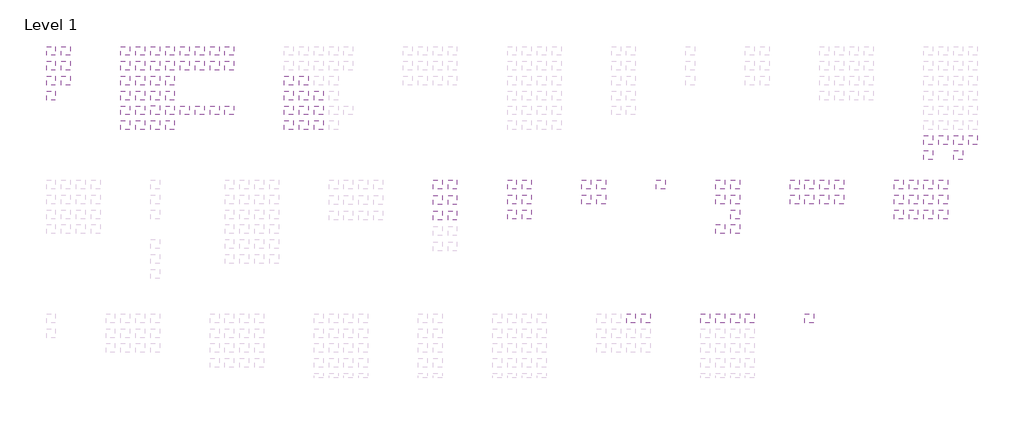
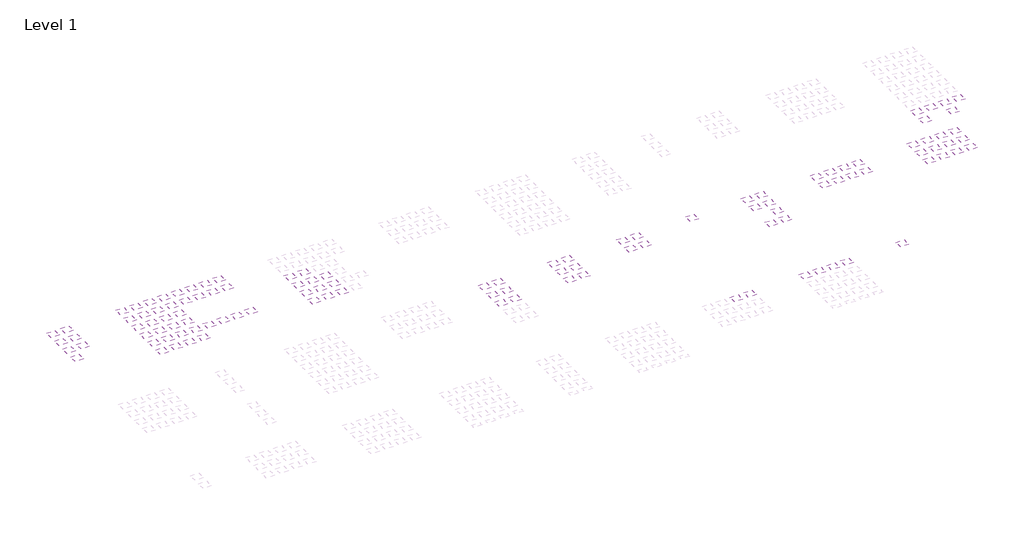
# One storey, part 3 of 4: 111 coverings.
"""IFC4 building model written with IfcOpenShell, lengths in millimetres."""

import ifcopenshell
import ifcopenshell.guid

model = None  # the IFC model being written
_history = None  # IfcOwnerHistory: only IFC2X3 demands one
_inside = {}  # id of a spatial element -> (the spatial element, [elements in it])
_under = {}  # id of a project, library or spatial element -> (it, [spatial elements below it])
_declared = {}  # id of a project -> (the project, [libraries it declares])
_typed = {}  # id of a type object -> (the type object, [elements of that type])
_made_of = {}  # id of a material, layer set ... -> (it, [elements and type objects made of it])


def new_model(schema):
    """Start an empty IFC model of exactly this schema.

    Asked for "IFC4X3", IfcOpenShell would pick the latest addendum, in which some entities
    have other attributes; the version numbers below select the first issue.
    IFC2X3 requires an IfcOwnerHistory on every rooted entity: one is made here for all.
    """
    global model, _history
    if schema == "IFC4X3":
        model = ifcopenshell.file(schema_version=(4, 3, 0, 0))
    else:
        model = ifcopenshell.file(schema=schema)
    _inside.clear()
    _under.clear()
    _declared.clear()
    _typed.clear()
    _made_of.clear()
    _history = None
    if model.schema == "IFC2X3":
        org = make("IfcOrganization", Name="unknown")
        user = make(
            "IfcPersonAndOrganization",
            ThePerson=make("IfcPerson", FamilyName="unknown"),
            TheOrganization=org,
        )
        app = make(
            "IfcApplication",
            ApplicationDeveloper=org,
            Version="unknown",
            ApplicationFullName="unknown",
            ApplicationIdentifier="unknown",
        )
        _history = make(
            "IfcOwnerHistory",
            OwningUser=user,
            OwningApplication=app,
            ChangeAction="ADDED",
            CreationDate=0,
        )
    return model


def make(cls, **values):
    """One entity of the class cls with the attributes given. An attribute that is None is left unset."""
    return model.create_entity(
        cls, **{name: value for name, value in values.items() if value is not None}
    )


def rooted(cls, **values):
    """An entity with a GlobalId (a new one), such as an element, a storey or a relation."""
    return make(cls, GlobalId=ifcopenshell.guid.new(), OwnerHistory=_history, **values)


def si_unit(unit_type, name, prefix=None):
    """IfcSIUnit, for example si_unit("LENGTHUNIT", "METRE", prefix="MILLI")."""
    return make("IfcSIUnit", UnitType=unit_type, Prefix=prefix, Name=name)


def assignment(units):
    """IfcUnitAssignment: the units of a project."""
    return None if units is None else make("IfcUnitAssignment", Units=units)


def point(xyz):
    """IfcCartesianPoint."""
    return None if xyz is None else make("IfcCartesianPoint", Coordinates=xyz)


def direction(xyz):
    """IfcDirection."""
    return None if xyz is None else make("IfcDirection", DirectionRatios=xyz)


def frame(location, z_axis=None, x_axis=None):
    """IfcAxis2Placement3D, a coordinate frame: its origin and axes. An axis left out is left unset."""
    return make(
        "IfcAxis2Placement3D",
        Location=point(location),
        Axis=direction(z_axis),
        RefDirection=direction(x_axis),
    )


def origin():
    """The frame at (0, 0, 0) with its axes left unset."""
    return frame((0.0, 0.0, 0.0))


def place(relative_to, where):
    """IfcLocalPlacement: puts the frame where relative to a parent placement (None: the world)."""
    return make(
        "IfcLocalPlacement", PlacementRelTo=relative_to, RelativePlacement=where
    )


def context(
    kind, dimensions, precision=None, world=None, true_north=None, identifier=None
):
    """IfcGeometricRepresentationContext, for example the 3D "Model" context."""
    return make(
        "IfcGeometricRepresentationContext",
        ContextIdentifier=identifier,
        ContextType=kind,
        CoordinateSpaceDimension=dimensions,
        Precision=precision,
        WorldCoordinateSystem=world,
        TrueNorth=true_north,
    )


def project(units=None, contexts=None):
    """IfcProject with its units and contexts."""
    return rooted(
        "IfcProject",
        Name="project",
        RepresentationContexts=contexts,
        UnitsInContext=assignment(units),
    )


def spatial(cls, under=None, at=None, **own):
    """A site, building, storey or space (cls), placed at a placement, below another one or the project."""
    s = rooted(cls, ObjectPlacement=at, **own)
    if under is not None:
        _under.setdefault(under.id(), (under, []))[1].append(s)
    return s


def polyline(points):
    """IfcPolyline through the points."""
    return make("IfcPolyline", Points=[point(p) for p in points])


def outline(outer, holes=None, kind="AREA"):
    """IfcArbitraryClosedProfileDef: a profile drawn as a closed curve; with holes, ...WithVoids."""
    if holes is None:
        return make("IfcArbitraryClosedProfileDef", ProfileType=kind, OuterCurve=outer)
    return make(
        "IfcArbitraryProfileDefWithVoids",
        ProfileType=kind,
        OuterCurve=outer,
        InnerCurves=holes,
    )


def extrude(swept, where, along, depth):
    """IfcExtrudedAreaSolid: the profile swept, set in the frame where, extruded along a direction by depth."""
    return make(
        "IfcExtrudedAreaSolid",
        SweptArea=swept,
        Position=where,
        ExtrudedDirection=direction(along),
        Depth=depth,
    )


def shape(context_of_items, identifier, shape_type, items):
    """IfcShapeRepresentation: the items that make up one representation, for example the "Body"."""
    return make(
        "IfcShapeRepresentation",
        ContextOfItems=context_of_items,
        RepresentationIdentifier=identifier,
        RepresentationType=shape_type,
        Items=items,
    )


def made_of(thing, what):
    """Note that an element or type object is made of a material, layer set ...; save() writes the relation."""
    if what is not None:
        _made_of.setdefault(what.id(), (what, []))[1].append(thing)
    return thing


def element(
    cls,
    number,
    at=None,
    inside=None,
    cuts=None,
    type_object=None,
    material=None,
    context=None,
    identifier="Body",
    shape_type=None,
    held_by="IfcProductDefinitionShape",
    body=None,
    shapes=None,
    **own,
):
    """One element of the class cls, such as IfcWall. Its Tag is "e" and its number.

    at: its placement. inside: the storey or other place that contains it. cuts: it is an
    opening in that element (IfcRelVoidsElement). A single representation is given by context,
    identifier, shape_type and body (its items); several are given by shapes. held_by: the class
    of the entity that holds the representations. save() writes the other relations.
    """
    e = rooted(cls, Tag="e%d" % number, ObjectPlacement=at, **own)
    if body is not None:
        shapes = [shape(context, identifier, shape_type, body)]
    if shapes is not None:
        e.Representation = make(held_by, Representations=shapes)
    if inside is not None:
        _inside.setdefault(inside.id(), (inside, []))[1].append(e)
    if cuts is not None:
        rooted(
            "IfcRelVoidsElement", RelatingBuildingElement=cuts, RelatedOpeningElement=e
        )
    if type_object is not None:
        _typed.setdefault(type_object.id(), (type_object, []))[1].append(e)
    return made_of(e, material)


def aggregate(whole, parts):
    """IfcRelAggregates: a whole, such as a stair, and the parts it consists of."""
    return rooted("IfcRelAggregates", RelatingObject=whole, RelatedObjects=parts)


def save(model, path):
    """Write the relations noted so far, then the file.

    IfcRelAggregates (storeys below a building ...), IfcRelContainedInSpatialStructure (elements
    in a storey), IfcRelDefinesByType, IfcRelAssociatesMaterial and IfcRelDeclares: one each for
    every whole, place, type object, material and project.
    """
    for whole, parts in _under.values():
        aggregate(whole, parts)
    for where, things in _inside.values():
        rooted(
            "IfcRelContainedInSpatialStructure",
            RelatedElements=things,
            RelatingStructure=where,
        )
    for kind, things in _typed.values():
        rooted("IfcRelDefinesByType", RelatedObjects=things, RelatingType=kind)
    for what, things in _made_of.values():
        rooted("IfcRelAssociatesMaterial", RelatedObjects=things, RelatingMaterial=what)
    for by, libraries in _declared.values():
        rooted("IfcRelDeclares", RelatingContext=by, RelatedDefinitions=libraries)
    model.write(path)


model = new_model("IFC4")

# Units and contexts
model_context = context("Model", 3, world=origin())
ifc_project = project(units=[si_unit("LENGTHUNIT", "METRE", prefix="MILLI")], contexts=[model_context])

# Site, building, storey
site = spatial("IfcSite", under=ifc_project)
building = spatial("IfcBuilding", under=site)
storey = spatial("IfcBuildingStorey", under=building, Name="Level 1", Elevation=0.0)

# Coverings
placement = place(None, origin())
element("IfcCovering", 1, ObjectType="OWA Bolero S3 625x625_15", at=placement, inside=storey, context=model_context, shape_type="SweptSolid", body=[
    extrude(outline(polyline([(3112.2416021, 28626.6149871), (3112.2416021, 25626.6149871), (112.2416021, 25626.6149871), (112.2416021, 28626.6149871), (3112.2416021, 28626.6149871)])), frame((0.0, 0.0, 2600.0), z_axis=(0.0, 0.0, 1.0), x_axis=(1.0, 0.0, 0.0)), (0.0, 0.0, 1.0), 38.0),
])
element("IfcCovering", 2, ObjectType="OWA Bolero S3 cliq 625x625_15", at=placement, inside=storey, context=model_context, shape_type="SweptSolid", body=[
    extrude(outline(polyline([(3112.2416021, 23626.6149871), (3112.2416021, 20626.6149871), (112.2416021, 20626.6149871), (112.2416021, 23626.6149871), (3112.2416021, 23626.6149871)])), frame((0.0, 0.0, 2600.0), z_axis=(0.0, 0.0, 1.0), x_axis=(1.0, 0.0, 0.0)), (0.0, 0.0, 1.0), 38.0),
])
element("IfcCovering", 3, ObjectType="OWA Bolero S15 cliq 625x625_15", at=placement, inside=storey, context=model_context, shape_type="SweptSolid", body=[
    extrude(outline(polyline([(3112.2416021, 18626.6149871), (3112.2416021, 15626.6149871), (112.2416021, 15626.6149871), (112.2416021, 18626.6149871), (3112.2416021, 18626.6149871)])), frame((0.0, 0.0, 2600.0), z_axis=(0.0, 0.0, 1.0), x_axis=(1.0, 0.0, 0.0)), (0.0, 0.0, 1.0), 38.0),
])
element("IfcCovering", 4, ObjectType="OWA Bolero S15b 625x625_15", at=placement, inside=storey, context=model_context, shape_type="SweptSolid", body=[
    extrude(outline(polyline([(3112.2416021, 13626.6149871), (3112.2416021, 10626.6149871), (112.2416021, 10626.6149871), (112.2416021, 13626.6149871), (3112.2416021, 13626.6149871)])), frame((0.0, 0.0, 2600.0), z_axis=(0.0, 0.0, 1.0), x_axis=(1.0, 0.0, 0.0)), (0.0, 0.0, 1.0), 38.0),
])
element("IfcCovering", 5, ObjectType="OWA Brillianto A S3 600x600_20", at=placement, inside=storey, context=model_context, shape_type="SweptSolid", body=[
    extrude(outline(polyline([(28110.2416021, 28626.6149871), (28110.2416021, 25626.6149871), (25110.2416021, 25626.6149871), (25110.2416021, 28626.6149871), (28110.2416021, 28626.6149871)])), frame((0.0, 0.0, 2600.0), z_axis=(0.0, 0.0, 1.0), x_axis=(1.0, 0.0, 0.0)), (0.0, 0.0, 1.0), 38.0),
])
element("IfcCovering", 6, ObjectType="OWA Brillianto A S3 600x1200_20", at=placement, inside=storey, context=model_context, shape_type="SweptSolid", body=[
    extrude(outline(polyline([(43112.2416021, 28626.6149871), (43112.2416021, 25626.6149871), (40112.2416021, 25626.6149871), (40112.2416021, 28626.6149871), (43112.2416021, 28626.6149871)])), frame((0.0, 0.0, 2600.0), z_axis=(0.0, 0.0, 1.0), x_axis=(1.0, 0.0, 0.0)), (0.0, 0.0, 1.0), 38.0),
])
element("IfcCovering", 7, ObjectType="OWA Brillianto A S3 625x625_20", at=placement, inside=storey, context=model_context, shape_type="SweptSolid", body=[
    extrude(outline(polyline([(48112.2416021, 28626.6149871), (48112.2416021, 25626.6149871), (45112.2416021, 25626.6149871), (45112.2416021, 28626.6149871), (48112.2416021, 28626.6149871)])), frame((0.0, 0.0, 2600.0), z_axis=(0.0, 0.0, 1.0), x_axis=(1.0, 0.0, 0.0)), (0.0, 0.0, 1.0), 38.0),
])
element("IfcCovering", 8, ObjectType="OWA Brillianto A S3 625x1250_20", at=placement, inside=storey, context=model_context, shape_type="SweptSolid", body=[
    extrude(outline(polyline([(53112.2416021, 28626.6149871), (53112.2416021, 25626.6149871), (50112.2416021, 25626.6149871), (50112.2416021, 28626.6149871), (53112.2416021, 28626.6149871)])), frame((0.0, 0.0, 2600.0), z_axis=(0.0, 0.0, 1.0), x_axis=(1.0, 0.0, 0.0)), (0.0, 0.0, 1.0), 38.0),
])
element("IfcCovering", 9, ObjectType="OWA Brillianto A S3 cliq 600x600_20", at=placement, inside=storey, context=model_context, shape_type="SweptSolid", body=[
    extrude(outline(polyline([(33112.2416021, 23626.6149871), (33112.2416021, 20626.6149871), (30112.2416021, 20626.6149871), (30112.2416021, 23626.6149871), (33112.2416021, 23626.6149871)])), frame((0.0, 0.0, 2600.0), z_axis=(0.0, 0.0, 1.0), x_axis=(1.0, 0.0, 0.0)), (0.0, 0.0, 1.0), 38.0),
])
element("IfcCovering", 10, ObjectType="OWA Brillianto A S3 cliq 600x1200_20", at=placement, inside=storey, context=model_context, shape_type="SweptSolid", body=[
    extrude(outline(polyline([(43112.2416021, 23626.6149871), (43112.2416021, 20626.6149871), (40112.2416021, 20626.6149871), (40112.2416021, 23626.6149871), (43112.2416021, 23626.6149871)])), frame((0.0, 0.0, 2600.0), z_axis=(0.0, 0.0, 1.0), x_axis=(1.0, 0.0, 0.0)), (0.0, 0.0, 1.0), 38.0),
])
element("IfcCovering", 11, ObjectType="OWA Brillianto A S3 cliq 625x625_20", at=placement, inside=storey, context=model_context, shape_type="SweptSolid", body=[
    extrude(outline(polyline([(53112.2416021, 23626.6149871), (53112.2416021, 20626.6149871), (50112.2416021, 20626.6149871), (50112.2416021, 23626.6149871), (53112.2416021, 23626.6149871)])), frame((0.0, 0.0, 2600.0), z_axis=(0.0, 0.0, 1.0), x_axis=(1.0, 0.0, 0.0)), (0.0, 0.0, 1.0), 38.0),
])
element("IfcCovering", 12, ObjectType="OWA Brillianto A S3 cliq 625x1250_20", at=placement, inside=storey, context=model_context, shape_type="SweptSolid", body=[
    extrude(outline(polyline([(63112.2416021, 23626.6149871), (63112.2416021, 20626.6149871), (60112.2416021, 20626.6149871), (60112.2416021, 23626.6149871), (63112.2416021, 23626.6149871)])), frame((0.0, 0.0, 2600.0), z_axis=(0.0, 0.0, 1.0), x_axis=(1.0, 0.0, 0.0)), (0.0, 0.0, 1.0), 38.0),
])
element("IfcCovering", 13, ObjectType="OWA Brillianto A S15 cliq 600x600_20", at=placement, inside=storey, context=model_context, shape_type="SweptSolid", body=[
    extrude(outline(polyline([(28110.2416021, 8626.6149871), (28110.2416021, 5626.6149871), (25110.2416021, 5626.6149871), (25110.2416021, 8626.6149871), (28110.2416021, 8626.6149871)])), frame((0.0, 0.0, 2600.0), z_axis=(0.0, 0.0, 1.0), x_axis=(1.0, 0.0, 0.0)), (0.0, 0.0, 1.0), 38.0),
])
element("IfcCovering", 14, ObjectType="OWA Brillianto A S15 cliq 600x1200_20", at=placement, inside=storey, context=model_context, shape_type="SweptSolid", body=[
    extrude(outline(polyline([(43112.2416021, 8626.6149871), (43112.2416021, 5626.6149871), (40112.2416021, 5626.6149871), (40112.2416021, 8626.6149871), (43112.2416021, 8626.6149871)])), frame((0.0, 0.0, 2600.0), z_axis=(0.0, 0.0, 1.0), x_axis=(1.0, 0.0, 0.0)), (0.0, 0.0, 1.0), 38.0),
])
element("IfcCovering", 15, ObjectType="OWA Brillianto A S15 cliq 625x625_20", at=placement, inside=storey, context=model_context, shape_type="SweptSolid", body=[
    extrude(outline(polyline([(53112.2416021, 8626.6149871), (53112.2416021, 5626.6149871), (50112.2416021, 5626.6149871), (50112.2416021, 8626.6149871), (53112.2416021, 8626.6149871)])), frame((0.0, 0.0, 2600.0), z_axis=(0.0, 0.0, 1.0), x_axis=(1.0, 0.0, 0.0)), (0.0, 0.0, 1.0), 38.0),
])
element("IfcCovering", 16, ObjectType="OWA Brillianto A S15 cliq 625x1250_20", at=placement, inside=storey, context=model_context, shape_type="SweptSolid", body=[
    extrude(outline(polyline([(63112.2416021, 8626.6149871), (63112.2416021, 5626.6149871), (60112.2416021, 5626.6149871), (60112.2416021, 8626.6149871), (63112.2416021, 8626.6149871)])), frame((0.0, 0.0, 2600.0), z_axis=(0.0, 0.0, 1.0), x_axis=(1.0, 0.0, 0.0)), (0.0, 0.0, 1.0), 38.0),
])
element("IfcCovering", 17, ObjectType="OWA Constellation S3a 600x600_15", at=placement, inside=storey, context=model_context, shape_type="SweptSolid", body=[
    extrude(outline(polyline([(83112.2416021, 18626.6149871), (83112.2416021, 15626.6149871), (80112.2416021, 15626.6149871), (80112.2416021, 18626.6149871), (83112.2416021, 18626.6149871)])), frame((0.0, 0.0, 2600.0), z_axis=(0.0, 0.0, 1.0), x_axis=(1.0, 0.0, 0.0)), (0.0, 0.0, 1.0), 38.0),
])
element("IfcCovering", 18, ObjectType="OWA Constellation S3a 600x1200_15", at=placement, inside=storey, context=model_context, shape_type="SweptSolid", body=[
    extrude(outline(polyline([(88114.2416021, 18626.6149871), (88114.2416021, 15626.6149871), (85114.2416021, 15626.6149871), (85114.2416021, 18626.6149871), (88114.2416021, 18626.6149871)])), frame((0.0, 0.0, 2600.0), z_axis=(0.0, 0.0, 1.0), x_axis=(1.0, 0.0, 0.0)), (0.0, 0.0, 1.0), 38.0),
])
element("IfcCovering", 19, ObjectType="OWA Constellation S3a cliq 600x600_15", at=placement, inside=storey, context=model_context, shape_type="SweptSolid", body=[
    extrude(outline(polyline([(83112.2416021, 13626.6149871), (83112.2416021, 10626.6149871), (80112.2416021, 10626.6149871), (80112.2416021, 13626.6149871), (83112.2416021, 13626.6149871)])), frame((0.0, 0.0, 2600.0), z_axis=(0.0, 0.0, 1.0), x_axis=(1.0, 0.0, 0.0)), (0.0, 0.0, 1.0), 38.0),
])
element("IfcCovering", 20, ObjectType="OWA Constellation S3a cliq 600x1200_15", at=placement, inside=storey, context=model_context, shape_type="SweptSolid", body=[
    extrude(outline(polyline([(88114.2416021, 13626.6149871), (88114.2416021, 10626.6149871), (85114.2416021, 10626.6149871), (85114.2416021, 13626.6149871), (88114.2416021, 13626.6149871)])), frame((0.0, 0.0, 2600.0), z_axis=(0.0, 0.0, 1.0), x_axis=(1.0, 0.0, 0.0)), (0.0, 0.0, 1.0), 38.0),
])
element("IfcCovering", 21, ObjectType="OWA Constellation S3a cliq 625x625_15", at=placement, inside=storey, context=model_context, shape_type="SweptSolid", body=[
    extrude(outline(polyline([(93114.2416021, 13626.6149871), (93114.2416021, 10626.6149871), (90114.2416021, 10626.6149871), (90114.2416021, 13626.6149871), (93114.2416021, 13626.6149871)])), frame((0.0, 0.0, 2600.0), z_axis=(0.0, 0.0, 1.0), x_axis=(1.0, 0.0, 0.0)), (0.0, 0.0, 1.0), 38.0),
])
element("IfcCovering", 22, ObjectType="OWA Constellation S15 cliq 600x600_15", at=placement, inside=storey, context=model_context, shape_type="SweptSolid", body=[
    extrude(outline(polyline([(83112.2416021, 8626.6149871), (83112.2416021, 5626.6149871), (80112.2416021, 5626.6149871), (80112.2416021, 8626.6149871), (83112.2416021, 8626.6149871)])), frame((0.0, 0.0, 2600.0), z_axis=(0.0, 0.0, 1.0), x_axis=(1.0, 0.0, 0.0)), (0.0, 0.0, 1.0), 38.0),
])
element("IfcCovering", 23, ObjectType="OWA Constellation S15 cliq 600x1200_15", at=placement, inside=storey, context=model_context, shape_type="SweptSolid", body=[
    extrude(outline(polyline([(88114.2416021, 8626.6149871), (88114.2416021, 5626.6149871), (85114.2416021, 5626.6149871), (85114.2416021, 8626.6149871), (88114.2416021, 8626.6149871)])), frame((0.0, 0.0, 2600.0), z_axis=(0.0, 0.0, 1.0), x_axis=(1.0, 0.0, 0.0)), (0.0, 0.0, 1.0), 38.0),
])
element("IfcCovering", 24, ObjectType="OWA Constellation S15 cliq 625x625_15", at=placement, inside=storey, context=model_context, shape_type="SweptSolid", body=[
    extrude(outline(polyline([(93114.2416021, 8626.6149871), (93114.2416021, 5626.6149871), (90114.2416021, 5626.6149871), (90114.2416021, 8626.6149871), (93114.2416021, 8626.6149871)])), frame((0.0, 0.0, 2600.0), z_axis=(0.0, 0.0, 1.0), x_axis=(1.0, 0.0, 0.0)), (0.0, 0.0, 1.0), 38.0),
])
element("IfcCovering", 25, ObjectType="OWA Constellation S15a cliq 600x600_15", at=placement, inside=storey, context=model_context, shape_type="SweptSolid", body=[
    extrude(outline(polyline([(83112.2416021, 3626.6149871), (83112.2416021, 626.6149871), (80112.2416021, 626.6149871), (80112.2416021, 3626.6149871), (83112.2416021, 3626.6149871)])), frame((0.0, 0.0, 2600.0), z_axis=(0.0, 0.0, 1.0), x_axis=(1.0, 0.0, 0.0)), (0.0, 0.0, 1.0), 38.0),
])
element("IfcCovering", 26, ObjectType="OWA Constellation S15a cliq 600x1200_15", at=placement, inside=storey, context=model_context, shape_type="SweptSolid", body=[
    extrude(outline(polyline([(88114.2416021, 3626.6149871), (88114.2416021, 626.6149871), (85114.2416021, 626.6149871), (85114.2416021, 3626.6149871), (88114.2416021, 3626.6149871)])), frame((0.0, 0.0, 2600.0), z_axis=(0.0, 0.0, 1.0), x_axis=(1.0, 0.0, 0.0)), (0.0, 0.0, 1.0), 38.0),
])
element("IfcCovering", 27, ObjectType="OWA Constellation S15a cliq 625x625_15", at=placement, inside=storey, context=model_context, shape_type="SweptSolid", body=[
    extrude(outline(polyline([(93114.2416021, 3626.6149871), (93114.2416021, 626.6149871), (90114.2416021, 626.6149871), (90114.2416021, 3626.6149871), (93114.2416021, 3626.6149871)])), frame((0.0, 0.0, 2600.0), z_axis=(0.0, 0.0, 1.0), x_axis=(1.0, 0.0, 0.0)), (0.0, 0.0, 1.0), 38.0),
])
element("IfcCovering", 28, ObjectType="OWA New Sandila/NRC S3 600x600_15", at=placement, inside=storey, context=model_context, shape_type="SweptSolid", body=[
    extrude(outline(polyline([(133114.2416021, -16373.3850129), (133114.2416021, -19373.3850129), (130114.2416021, -19373.3850129), (130114.2416021, -16373.3850129), (133114.2416021, -16373.3850129)])), frame((0.0, 0.0, 2600.0), z_axis=(0.0, 0.0, 1.0), x_axis=(1.0, 0.0, 0.0)), (0.0, 0.0, 1.0), 38.0),
])
element("IfcCovering", 29, ObjectType="OWA New Sandila/NRC S3a 625x625_15", at=placement, inside=storey, context=model_context, shape_type="SweptSolid", body=[
    extrude(outline(polyline([(138114.2416021, -26773.3850129), (138114.2416021, -29773.3850129), (135114.2416021, -29773.3850129), (135114.2416021, -26773.3850129), (138114.2416021, -26773.3850129)])), frame((0.0, 0.0, 2600.0), z_axis=(0.0, 0.0, 1.0), x_axis=(1.0, 0.0, 0.0)), (0.0, 0.0, 1.0), 38.0),
])
element("IfcCovering", 30, ObjectType="OWA New Sandila/NRC S3 cliq 600x600_15", at=placement, inside=storey, context=model_context, shape_type="SweptSolid", body=[
    extrude(outline(polyline([(133114.2416021, -21573.3850129), (133114.2416021, -24573.3850129), (130114.2416021, -24573.3850129), (130114.2416021, -21573.3850129), (133114.2416021, -21573.3850129)])), frame((0.0, 0.0, 2600.0), z_axis=(0.0, 0.0, 1.0), x_axis=(1.0, 0.0, 0.0)), (0.0, 0.0, 1.0), 38.0),
])
element("IfcCovering", 31, ObjectType="OWA New Sandila/NRC S3a 600x600_15", at=placement, inside=storey, context=model_context, shape_type="SweptSolid", body=[
    extrude(outline(polyline([(133114.2416021, -26773.3850129), (133114.2416021, -29773.3850129), (130114.2416021, -29773.3850129), (130114.2416021, -26773.3850129), (133114.2416021, -26773.3850129)])), frame((0.0, 0.0, 2600.0), z_axis=(0.0, 0.0, 1.0), x_axis=(1.0, 0.0, 0.0)), (0.0, 0.0, 1.0), 38.0),
])
element("IfcCovering", 32, ObjectType="OWA New Sandila/NRC S3 cliq 625x625_15", at=placement, inside=storey, context=model_context, shape_type="SweptSolid", body=[
    extrude(outline(polyline([(138114.2416021, -21573.3850129), (138114.2416021, -24573.3850129), (135114.2416021, -24573.3850129), (135114.2416021, -21573.3850129), (138114.2416021, -21573.3850129)])), frame((0.0, 0.0, 2600.0), z_axis=(0.0, 0.0, 1.0), x_axis=(1.0, 0.0, 0.0)), (0.0, 0.0, 1.0), 38.0),
])
element("IfcCovering", 33, ObjectType="OWA New Sandila/NRC S3 625x625_15", at=placement, inside=storey, context=model_context, shape_type="SweptSolid", body=[
    extrude(outline(polyline([(138114.2416021, -16373.3850129), (138114.2416021, -19373.3850129), (135114.2416021, -19373.3850129), (135114.2416021, -16373.3850129), (138114.2416021, -16373.3850129)])), frame((0.0, 0.0, 2600.0), z_axis=(0.0, 0.0, 1.0), x_axis=(1.0, 0.0, 0.0)), (0.0, 0.0, 1.0), 38.0),
])
element("IfcCovering", 34, ObjectType="OWA OWAlux white S3 625x625_15", at=placement, inside=storey, context=model_context, shape_type="SweptSolid", body=[
    extrude(outline(polyline([(188112.2416021, -16373.3850129), (188112.2416021, -19373.3850129), (185112.2416021, -19373.3850129), (185112.2416021, -16373.3850129), (188112.2416021, -16373.3850129)])), frame((0.0, 0.0, 2600.0), z_axis=(0.0, 0.0, 1.0), x_axis=(1.0, 0.0, 0.0)), (0.0, 0.0, 1.0), 38.0),
])
element("IfcCovering", 35, ObjectType="OWA OWAplan90_2400x1200_25", at=placement, inside=storey, context=model_context, shape_type="SweptSolid", body=[
    extrude(outline(polyline([(208110.2416021, -16373.3850129), (208110.2416021, -19373.3850129), (205110.2416021, -19373.3850129), (205110.2416021, -16373.3850129), (208110.2416021, -16373.3850129)])), frame((0.0, 0.0, 2600.0), z_axis=(0.0, 0.0, 1.0), x_axis=(1.0, 0.0, 0.0)), (0.0, 0.0, 1.0), 95.0),
])
element("IfcCovering", 36, ObjectType="OWA Plain S3 cliq 600x600_15", at=placement, inside=storey, context=model_context, shape_type="SweptSolid", body=[
    extrude(outline(polyline([(228110.2416021, -21373.3850129), (228110.2416021, -24373.3850129), (225110.2416021, -24373.3850129), (225110.2416021, -21373.3850129), (228110.2416021, -21373.3850129)])), frame((0.0, 0.0, 2600.0), z_axis=(0.0, 0.0, 1.0), x_axis=(1.0, 0.0, 0.0)), (0.0, 0.0, 1.0), 38.0),
])
element("IfcCovering", 37, ObjectType="OWA Plain S15 cliq 600x600_15", at=placement, inside=storey, context=model_context, shape_type="SweptSolid", body=[
    extrude(outline(polyline([(228110.2416021, -31373.3850129), (228110.2416021, -34373.3850129), (225110.2416021, -34373.3850129), (225110.2416021, -31373.3850129), (228110.2416021, -31373.3850129)])), frame((0.0, 0.0, 2600.0), z_axis=(0.0, 0.0, 1.0), x_axis=(1.0, 0.0, 0.0)), (0.0, 0.0, 1.0), 38.0),
])
element("IfcCovering", 38, ObjectType="OWA Plain Sanitas 02 S3 600x600_15", at=placement, inside=storey, context=model_context, shape_type="SweptSolid", body=[
    extrude(outline(polyline([(253104.2416021, -16373.3850129), (253104.2416021, -19373.3850129), (250104.2416021, -19373.3850129), (250104.2416021, -16373.3850129), (253104.2416021, -16373.3850129)])), frame((0.0, 0.0, 2600.0), z_axis=(0.0, 0.0, 1.0), x_axis=(1.0, 0.0, 0.0)), (0.0, 0.0, 1.0), 38.0),
])
element("IfcCovering", 39, ObjectType="OWA Plain Sanitas 02 S3 625x625_15", at=placement, inside=storey, context=model_context, shape_type="SweptSolid", body=[
    extrude(outline(polyline([(263104.2416021, -16373.3850129), (263104.2416021, -19373.3850129), (260104.2416021, -19373.3850129), (260104.2416021, -16373.3850129), (263104.2416021, -16373.3850129)])), frame((0.0, 0.0, 2600.0), z_axis=(0.0, 0.0, 1.0), x_axis=(1.0, 0.0, 0.0)), (0.0, 0.0, 1.0), 38.0),
])
element("IfcCovering", 40, ObjectType="OWA Plain Sanitas 02 S3 625x1250_15", at=placement, inside=storey, context=model_context, shape_type="SweptSolid", body=[
    extrude(outline(polyline([(268104.2416021, -16373.3850129), (268104.2416021, -19373.3850129), (265104.2416021, -19373.3850129), (265104.2416021, -16373.3850129), (268104.2416021, -16373.3850129)])), frame((0.0, 0.0, 2600.0), z_axis=(0.0, 0.0, 1.0), x_axis=(1.0, 0.0, 0.0)), (0.0, 0.0, 1.0), 38.0),
])
element("IfcCovering", 41, ObjectType="OWA Plain Sanitas 02 S3 600x1200_15", at=placement, inside=storey, context=model_context, shape_type="SweptSolid", body=[
    extrude(outline(polyline([(258104.2416021, -16373.3850129), (258104.2416021, -19373.3850129), (255104.2416021, -19373.3850129), (255104.2416021, -16373.3850129), (258104.2416021, -16373.3850129)])), frame((0.0, 0.0, 2600.0), z_axis=(0.0, 0.0, 1.0), x_axis=(1.0, 0.0, 0.0)), (0.0, 0.0, 1.0), 38.0),
])
element("IfcCovering", 42, ObjectType="OWA Sinfonia black S3 600x600_15", at=placement, inside=storey, context=model_context, shape_type="SweptSolid", body=[
    extrude(outline(polyline([(288102.2416021, -16373.3850129), (288102.2416021, -19373.3850129), (285102.2416021, -19373.3850129), (285102.2416021, -16373.3850129), (288102.2416021, -16373.3850129)])), frame((0.0, 0.0, 2600.0), z_axis=(0.0, 0.0, 1.0), x_axis=(1.0, 0.0, 0.0)), (0.0, 0.0, 1.0), 38.0),
])
element("IfcCovering", 43, ObjectType="OWA Sinfonia black S3 625x625_15", at=placement, inside=storey, context=model_context, shape_type="SweptSolid", body=[
    extrude(outline(polyline([(298102.2416021, -16373.3850129), (298102.2416021, -19373.3850129), (295102.2416021, -19373.3850129), (295102.2416021, -16373.3850129), (298102.2416021, -16373.3850129)])), frame((0.0, 0.0, 2600.0), z_axis=(0.0, 0.0, 1.0), x_axis=(1.0, 0.0, 0.0)), (0.0, 0.0, 1.0), 38.0),
])
element("IfcCovering", 44, ObjectType="OWA Sinfonia black S3 600x1200_15", at=placement, inside=storey, context=model_context, shape_type="SweptSolid", body=[
    extrude(outline(polyline([(293104.2416021, -16373.3850129), (293104.2416021, -19373.3850129), (290104.2416021, -19373.3850129), (290104.2416021, -16373.3850129), (293104.2416021, -16373.3850129)])), frame((0.0, 0.0, 2600.0), z_axis=(0.0, 0.0, 1.0), x_axis=(1.0, 0.0, 0.0)), (0.0, 0.0, 1.0), 38.0),
])
element("IfcCovering", 45, ObjectType="OWA Sinfonia black S3 625x1250_15", at=placement, inside=storey, context=model_context, shape_type="SweptSolid", body=[
    extrude(outline(polyline([(303102.2416021, -16373.3850129), (303102.2416021, -19373.3850129), (300102.2416021, -19373.3850129), (300102.2416021, -16373.3850129), (303102.2416021, -16373.3850129)])), frame((0.0, 0.0, 2600.0), z_axis=(0.0, 0.0, 1.0), x_axis=(1.0, 0.0, 0.0)), (0.0, 0.0, 1.0), 38.0),
])
element("IfcCovering", 46, ObjectType="OWA Sinfonia black S3 cliq 600x600_15", at=placement, inside=storey, context=model_context, shape_type="SweptSolid", body=[
    extrude(outline(polyline([(288102.2416021, -21373.3850129), (288102.2416021, -24373.3850129), (285102.2416021, -24373.3850129), (285102.2416021, -21373.3850129), (288102.2416021, -21373.3850129)])), frame((0.0, 0.0, 2600.0), z_axis=(0.0, 0.0, 1.0), x_axis=(1.0, 0.0, 0.0)), (0.0, 0.0, 1.0), 38.0),
])
element("IfcCovering", 47, ObjectType="OWA Sinfonia black S3 cliq 625x625_15", at=placement, inside=storey, context=model_context, shape_type="SweptSolid", body=[
    extrude(outline(polyline([(298102.2416021, -21373.3850129), (298102.2416021, -24373.3850129), (295102.2416021, -24373.3850129), (295102.2416021, -21373.3850129), (298102.2416021, -21373.3850129)])), frame((0.0, 0.0, 2600.0), z_axis=(0.0, 0.0, 1.0), x_axis=(1.0, 0.0, 0.0)), (0.0, 0.0, 1.0), 38.0),
])
element("IfcCovering", 48, ObjectType="OWA Sinfonia black S3 cliq 600x1200_15", at=placement, inside=storey, context=model_context, shape_type="SweptSolid", body=[
    extrude(outline(polyline([(293104.2416021, -21373.3850129), (293104.2416021, -24373.3850129), (290104.2416021, -24373.3850129), (290104.2416021, -21373.3850129), (293104.2416021, -21373.3850129)])), frame((0.0, 0.0, 2600.0), z_axis=(0.0, 0.0, 1.0), x_axis=(1.0, 0.0, 0.0)), (0.0, 0.0, 1.0), 38.0),
])
element("IfcCovering", 49, ObjectType="OWA Sinfonia black S3 cliq 625x1250_15", at=placement, inside=storey, context=model_context, shape_type="SweptSolid", body=[
    extrude(outline(polyline([(303102.2416021, -21373.3850129), (303102.2416021, -24373.3850129), (300102.2416021, -24373.3850129), (300102.2416021, -21373.3850129), (303102.2416021, -21373.3850129)])), frame((0.0, 0.0, 2600.0), z_axis=(0.0, 0.0, 1.0), x_axis=(1.0, 0.0, 0.0)), (0.0, 0.0, 1.0), 38.0),
])
element("IfcCovering", 50, ObjectType="OWA Sinfonia black S15 cliq 600x600_15", at=placement, inside=storey, context=model_context, shape_type="SweptSolid", body=[
    extrude(outline(polyline([(288102.2416021, -26373.3850129), (288102.2416021, -29373.3850129), (285102.2416021, -29373.3850129), (285102.2416021, -26373.3850129), (288102.2416021, -26373.3850129)])), frame((0.0, 0.0, 2600.0), z_axis=(0.0, 0.0, 1.0), x_axis=(1.0, 0.0, 0.0)), (0.0, 0.0, 1.0), 38.0),
])
element("IfcCovering", 51, ObjectType="OWA Sinfonia black S15 cliq 625x625_15", at=placement, inside=storey, context=model_context, shape_type="SweptSolid", body=[
    extrude(outline(polyline([(298102.2416021, -26373.3850129), (298102.2416021, -29373.3850129), (295102.2416021, -29373.3850129), (295102.2416021, -26373.3850129), (298102.2416021, -26373.3850129)])), frame((0.0, 0.0, 2600.0), z_axis=(0.0, 0.0, 1.0), x_axis=(1.0, 0.0, 0.0)), (0.0, 0.0, 1.0), 38.0),
])
element("IfcCovering", 52, ObjectType="OWA Sinfonia black S15 cliq 600x1200_15", at=placement, inside=storey, context=model_context, shape_type="SweptSolid", body=[
    extrude(outline(polyline([(293104.2416021, -26373.3850129), (293104.2416021, -29373.3850129), (290104.2416021, -29373.3850129), (290104.2416021, -26373.3850129), (293104.2416021, -26373.3850129)])), frame((0.0, 0.0, 2600.0), z_axis=(0.0, 0.0, 1.0), x_axis=(1.0, 0.0, 0.0)), (0.0, 0.0, 1.0), 38.0),
])
element("IfcCovering", 53, ObjectType="OWA Sinfonia black S15 cliq 625x1250_15", at=placement, inside=storey, context=model_context, shape_type="SweptSolid", body=[
    extrude(outline(polyline([(303102.2416021, -26373.3850129), (303102.2416021, -29373.3850129), (300102.2416021, -29373.3850129), (300102.2416021, -26373.3850129), (303102.2416021, -26373.3850129)])), frame((0.0, 0.0, 2600.0), z_axis=(0.0, 0.0, 1.0), x_axis=(1.0, 0.0, 0.0)), (0.0, 0.0, 1.0), 38.0),
])
element("IfcCovering", 54, ObjectType="OWA Sinfonia Silencia l Humancare S3 625x625_20", at=placement, inside=storey, context=model_context, shape_type="SweptSolid", body=[
    extrude(outline(polyline([(198108.2416021, -61373.3850129), (198108.2416021, -64373.3850129), (195108.2416021, -64373.3850129), (195108.2416021, -61373.3850129), (198108.2416021, -61373.3850129)])), frame((0.0, 0.0, 2600.0), z_axis=(0.0, 0.0, 1.0), x_axis=(1.0, 0.0, 0.0)), (0.0, 0.0, 1.0), 38.0),
])
element("IfcCovering", 55, ObjectType="OWA Sinfonia Silencia l Humancare S3 625x1250_20", at=placement, inside=storey, context=model_context, shape_type="SweptSolid", body=[
    extrude(outline(polyline([(203108.2416021, -61373.3850129), (203108.2416021, -64373.3850129), (200108.2416021, -64373.3850129), (200108.2416021, -61373.3850129), (203108.2416021, -61373.3850129)])), frame((0.0, 0.0, 2600.0), z_axis=(0.0, 0.0, 1.0), x_axis=(1.0, 0.0, 0.0)), (0.0, 0.0, 1.0), 38.0),
])
element("IfcCovering", 56, ObjectType="OWA Bolero S3 625x1250_15", at=placement, inside=storey, context=model_context, shape_type="SweptSolid", body=[
    extrude(outline(polyline([(8112.2416021, 28626.6149871), (8112.2416021, 25626.6149871), (5112.2416021, 25626.6149871), (5112.2416021, 28626.6149871), (8112.2416021, 28626.6149871)])), frame((0.0, 0.0, 2600.0), z_axis=(0.0, 0.0, 1.0), x_axis=(1.0, 0.0, 0.0)), (0.0, 0.0, 1.0), 38.0),
])
element("IfcCovering", 57, ObjectType="OWA Bolero S3 cliq 625x1250_15", at=placement, inside=storey, context=model_context, shape_type="SweptSolid", body=[
    extrude(outline(polyline([(8112.2416021, 23626.6149871), (8112.2416021, 20626.6149871), (5112.2416021, 20626.6149871), (5112.2416021, 23626.6149871), (8112.2416021, 23626.6149871)])), frame((0.0, 0.0, 2600.0), z_axis=(0.0, 0.0, 1.0), x_axis=(1.0, 0.0, 0.0)), (0.0, 0.0, 1.0), 38.0),
])
element("IfcCovering", 58, ObjectType="OWA Bolero S15 cliq 625x1250_15", at=placement, inside=storey, context=model_context, shape_type="SweptSolid", body=[
    extrude(outline(polyline([(8112.2416021, 18626.6149871), (8112.2416021, 15626.6149871), (5112.2416021, 15626.6149871), (5112.2416021, 18626.6149871), (8112.2416021, 18626.6149871)])), frame((0.0, 0.0, 2600.0), z_axis=(0.0, 0.0, 1.0), x_axis=(1.0, 0.0, 0.0)), (0.0, 0.0, 1.0), 38.0),
])
element("IfcCovering", 59, ObjectType="OWA Brillianto A S3 625x625_14", at=placement, inside=storey, context=model_context, shape_type="SweptSolid", body=[
    extrude(outline(polyline([(58112.2416021, 28626.6149871), (58112.2416021, 25626.6149871), (55112.2416021, 25626.6149871), (55112.2416021, 28626.6149871), (58112.2416021, 28626.6149871)])), frame((0.0, 0.0, 2600.0), z_axis=(0.0, 0.0, 1.0), x_axis=(1.0, 0.0, 0.0)), (0.0, 0.0, 1.0), 32.0),
])
element("IfcCovering", 60, ObjectType="OWA Brillianto A S3 625x1250_14", at=placement, inside=storey, context=model_context, shape_type="SweptSolid", body=[
    extrude(outline(polyline([(63112.2416021, 28626.6149871), (63112.2416021, 25626.6149871), (60112.2416021, 25626.6149871), (60112.2416021, 28626.6149871), (63112.2416021, 28626.6149871)])), frame((0.0, 0.0, 2600.0), z_axis=(0.0, 0.0, 1.0), x_axis=(1.0, 0.0, 0.0)), (0.0, 0.0, 1.0), 32.0),
])
element("IfcCovering", 61, ObjectType="OWA Brillianto A S15 cliq 600x600_14", at=placement, inside=storey, context=model_context, shape_type="SweptSolid", body=[
    extrude(outline(polyline([(33112.2416021, 8626.6149871), (33112.2416021, 5626.6149871), (30112.2416021, 5626.6149871), (30112.2416021, 8626.6149871), (33112.2416021, 8626.6149871)])), frame((0.0, 0.0, 2600.0), z_axis=(0.0, 0.0, 1.0), x_axis=(1.0, 0.0, 0.0)), (0.0, 0.0, 1.0), 32.0),
])
element("IfcCovering", 62, ObjectType="OWA Brillianto A S15 cliq 600x1200_14", at=placement, inside=storey, context=model_context, shape_type="SweptSolid", body=[
    extrude(outline(polyline([(38112.2416021, 8751.6149871), (38112.2416021, 5751.6149871), (35112.2416021, 5751.6149871), (35112.2416021, 8751.6149871), (38112.2416021, 8751.6149871)])), frame((0.0, 0.0, 2600.0), z_axis=(0.0, 0.0, 1.0), x_axis=(1.0, 0.0, 0.0)), (0.0, 0.0, 1.0), 32.0),
])
element("IfcCovering", 63, ObjectType="OWA Brillianto A S15 cliq 625x625_14", at=placement, inside=storey, context=model_context, shape_type="SweptSolid", body=[
    extrude(outline(polyline([(48112.2416021, 8626.6149871), (48112.2416021, 5626.6149871), (45112.2416021, 5626.6149871), (45112.2416021, 8626.6149871), (48112.2416021, 8626.6149871)])), frame((0.0, 0.0, 2600.0), z_axis=(0.0, 0.0, 1.0), x_axis=(1.0, 0.0, 0.0)), (0.0, 0.0, 1.0), 32.0),
])
element("IfcCovering", 64, ObjectType="OWA Brillianto A S15 cliq 625x1250_14", at=placement, inside=storey, context=model_context, shape_type="SweptSolid", body=[
    extrude(outline(polyline([(58112.2416021, 8626.6149871), (58112.2416021, 5626.6149871), (55112.2416021, 5626.6149871), (55112.2416021, 8626.6149871), (58112.2416021, 8626.6149871)])), frame((0.0, 0.0, 2600.0), z_axis=(0.0, 0.0, 1.0), x_axis=(1.0, 0.0, 0.0)), (0.0, 0.0, 1.0), 32.0),
])
element("IfcCovering", 65, ObjectType="OWA Brillianto A S15a cliq 600x1200_14", at=placement, inside=storey, context=model_context, shape_type="SweptSolid", body=[
    extrude(outline(polyline([(33112.2416021, 3626.6149871), (33112.2416021, 626.6149871), (30112.2416021, 626.6149871), (30112.2416021, 3626.6149871), (33112.2416021, 3626.6149871)])), frame((0.0, 0.0, 2600.0), z_axis=(0.0, 0.0, 1.0), x_axis=(1.0, 0.0, 0.0)), (0.0, 0.0, 1.0), 32.0),
])
element("IfcCovering", 66, ObjectType="OWA Brillianto A S15a cliq 600x600_14", at=placement, inside=storey, context=model_context, shape_type="SweptSolid", body=[
    extrude(outline(polyline([(28110.2416021, 3626.6149871), (28110.2416021, 626.6149871), (25110.2416021, 626.6149871), (25110.2416021, 3626.6149871), (28110.2416021, 3626.6149871)])), frame((0.0, 0.0, 2600.0), z_axis=(0.0, 0.0, 1.0), x_axis=(1.0, 0.0, 0.0)), (0.0, 0.0, 1.0), 32.0),
])
element("IfcCovering", 67, ObjectType="OWA Brillianto A S15a cliq 625x1250_14", at=placement, inside=storey, context=model_context, shape_type="SweptSolid", body=[
    extrude(outline(polyline([(43114.2416021, 3626.6149871), (43114.2416021, 626.6149871), (40114.2416021, 626.6149871), (40114.2416021, 3626.6149871), (43114.2416021, 3626.6149871)])), frame((0.0, 0.0, 2600.0), z_axis=(0.0, 0.0, 1.0), x_axis=(1.0, 0.0, 0.0)), (0.0, 0.0, 1.0), 32.0),
])
element("IfcCovering", 68, ObjectType="OWA Brillianto A S15a cliq 625x625_14", at=placement, inside=storey, context=model_context, shape_type="SweptSolid", body=[
    extrude(outline(polyline([(38112.2416021, 3626.6149871), (38112.2416021, 626.6149871), (35112.2416021, 626.6149871), (35112.2416021, 3626.6149871), (38112.2416021, 3626.6149871)])), frame((0.0, 0.0, 2600.0), z_axis=(0.0, 0.0, 1.0), x_axis=(1.0, 0.0, 0.0)), (0.0, 0.0, 1.0), 32.0),
])
element("IfcCovering", 69, ObjectType="OWA Brillianto A S3 600x600_14", at=placement, inside=storey, context=model_context, shape_type="SweptSolid", body=[
    extrude(outline(polyline([(33112.2416021, 28626.6149871), (33112.2416021, 25626.6149871), (30112.2416021, 25626.6149871), (30112.2416021, 28626.6149871), (33112.2416021, 28626.6149871)])), frame((0.0, 0.0, 2600.0), z_axis=(0.0, 0.0, 1.0), x_axis=(1.0, 0.0, 0.0)), (0.0, 0.0, 1.0), 32.0),
])
element("IfcCovering", 70, ObjectType="OWA Brillianto A S3 600x1200_14", at=placement, inside=storey, context=model_context, shape_type="SweptSolid", body=[
    extrude(outline(polyline([(38112.2416021, 28626.6149871), (38112.2416021, 25626.6149871), (35112.2416021, 25626.6149871), (35112.2416021, 28626.6149871), (38112.2416021, 28626.6149871)])), frame((0.0, 0.0, 2600.0), z_axis=(0.0, 0.0, 1.0), x_axis=(1.0, 0.0, 0.0)), (0.0, 0.0, 1.0), 32.0),
])
element("IfcCovering", 71, ObjectType="OWA Brillianto A S3 cliq 600x600_14", at=placement, inside=storey, context=model_context, shape_type="SweptSolid", body=[
    extrude(outline(polyline([(28110.2416021, 23626.6149871), (28110.2416021, 20626.6149871), (25110.2416021, 20626.6149871), (25110.2416021, 23626.6149871), (28110.2416021, 23626.6149871)])), frame((0.0, 0.0, 2600.0), z_axis=(0.0, 0.0, 1.0), x_axis=(1.0, 0.0, 0.0)), (0.0, 0.0, 1.0), 32.0),
])
element("IfcCovering", 72, ObjectType="OWA Brillianto A S3 cliq 600x1200_14", at=placement, inside=storey, context=model_context, shape_type="SweptSolid", body=[
    extrude(outline(polyline([(38112.2416021, 23626.6149871), (38112.2416021, 20626.6149871), (35112.2416021, 20626.6149871), (35112.2416021, 23626.6149871), (38112.2416021, 23626.6149871)])), frame((0.0, 0.0, 2600.0), z_axis=(0.0, 0.0, 1.0), x_axis=(1.0, 0.0, 0.0)), (0.0, 0.0, 1.0), 32.0),
])
element("IfcCovering", 73, ObjectType="OWA Brillianto A S3 cliq 625x625_14", at=placement, inside=storey, context=model_context, shape_type="SweptSolid", body=[
    extrude(outline(polyline([(48112.2416021, 23626.6149871), (48112.2416021, 20626.6149871), (45112.2416021, 20626.6149871), (45112.2416021, 23626.6149871), (48112.2416021, 23626.6149871)])), frame((0.0, 0.0, 2600.0), z_axis=(0.0, 0.0, 1.0), x_axis=(1.0, 0.0, 0.0)), (0.0, 0.0, 1.0), 32.0),
])
element("IfcCovering", 74, ObjectType="OWA Brillianto A S3 cliq 625x1250_14", at=placement, inside=storey, context=model_context, shape_type="SweptSolid", body=[
    extrude(outline(polyline([(58112.2416021, 23626.6149871), (58112.2416021, 20626.6149871), (55112.2416021, 20626.6149871), (55112.2416021, 23626.6149871), (58112.2416021, 23626.6149871)])), frame((0.0, 0.0, 2600.0), z_axis=(0.0, 0.0, 1.0), x_axis=(1.0, 0.0, 0.0)), (0.0, 0.0, 1.0), 32.0),
])
element("IfcCovering", 75, ObjectType="OWA Brillianto A S3a 600x600_14", at=placement, inside=storey, context=model_context, shape_type="SweptSolid", body=[
    extrude(outline(polyline([(28110.2416021, 18626.6149871), (28110.2416021, 15626.6149871), (25110.2416021, 15626.6149871), (25110.2416021, 18626.6149871), (28110.2416021, 18626.6149871)])), frame((0.0, 0.0, 2600.0), z_axis=(0.0, 0.0, 1.0), x_axis=(1.0, 0.0, 0.0)), (0.0, 0.0, 1.0), 32.0),
])
element("IfcCovering", 76, ObjectType="OWA Brillianto A S3a 600x1200_14", at=placement, inside=storey, context=model_context, shape_type="SweptSolid", body=[
    extrude(outline(polyline([(33112.2416021, 18626.6149871), (33112.2416021, 15626.6149871), (30112.2416021, 15626.6149871), (30112.2416021, 18626.6149871), (33112.2416021, 18626.6149871)])), frame((0.0, 0.0, 2600.0), z_axis=(0.0, 0.0, 1.0), x_axis=(1.0, 0.0, 0.0)), (0.0, 0.0, 1.0), 32.0),
])
element("IfcCovering", 77, ObjectType="OWA Brillianto A S3a 625x625_14", at=placement, inside=storey, context=model_context, shape_type="SweptSolid", body=[
    extrude(outline(polyline([(38112.2416021, 18626.6149871), (38112.2416021, 15626.6149871), (35112.2416021, 15626.6149871), (35112.2416021, 18626.6149871), (38112.2416021, 18626.6149871)])), frame((0.0, 0.0, 2600.0), z_axis=(0.0, 0.0, 1.0), x_axis=(1.0, 0.0, 0.0)), (0.0, 0.0, 1.0), 32.0),
])
element("IfcCovering", 78, ObjectType="OWA Brillianto A S3a 625x1250_14", at=placement, inside=storey, context=model_context, shape_type="SweptSolid", body=[
    extrude(outline(polyline([(43112.2416021, 18626.6149871), (43112.2416021, 15626.6149871), (40112.2416021, 15626.6149871), (40112.2416021, 18626.6149871), (43112.2416021, 18626.6149871)])), frame((0.0, 0.0, 2600.0), z_axis=(0.0, 0.0, 1.0), x_axis=(1.0, 0.0, 0.0)), (0.0, 0.0, 1.0), 32.0),
])
element("IfcCovering", 79, ObjectType="OWA Brillianto A S3a cliq 600x600_14", at=placement, inside=storey, context=model_context, shape_type="SweptSolid", body=[
    extrude(outline(polyline([(28110.2416021, 13626.6149871), (28110.2416021, 10626.6149871), (25110.2416021, 10626.6149871), (25110.2416021, 13626.6149871), (28110.2416021, 13626.6149871)])), frame((0.0, 0.0, 2600.0), z_axis=(0.0, 0.0, 1.0), x_axis=(1.0, 0.0, 0.0)), (0.0, 0.0, 1.0), 32.0),
])
element("IfcCovering", 80, ObjectType="OWA Brillianto A S3a cliq 600x1200_14", at=placement, inside=storey, context=model_context, shape_type="SweptSolid", body=[
    extrude(outline(polyline([(33110.2416021, 13626.6149871), (33110.2416021, 10626.6149871), (30110.2416021, 10626.6149871), (30110.2416021, 13626.6149871), (33110.2416021, 13626.6149871)])), frame((0.0, 0.0, 2600.0), z_axis=(0.0, 0.0, 1.0), x_axis=(1.0, 0.0, 0.0)), (0.0, 0.0, 1.0), 32.0),
])
element("IfcCovering", 81, ObjectType="OWA Brillianto A S3a cliq 625x625_14", at=placement, inside=storey, context=model_context, shape_type="SweptSolid", body=[
    extrude(outline(polyline([(38110.2416021, 13626.6149871), (38110.2416021, 10626.6149871), (35110.2416021, 10626.6149871), (35110.2416021, 13626.6149871), (38110.2416021, 13626.6149871)])), frame((0.0, 0.0, 2600.0), z_axis=(0.0, 0.0, 1.0), x_axis=(1.0, 0.0, 0.0)), (0.0, 0.0, 1.0), 32.0),
])
element("IfcCovering", 82, ObjectType="OWA Brillianto A S3a cliq 625x1250_14", at=placement, inside=storey, context=model_context, shape_type="SweptSolid", body=[
    extrude(outline(polyline([(43110.2416021, 13626.6149871), (43110.2416021, 10626.6149871), (40110.2416021, 10626.6149871), (40110.2416021, 13626.6149871), (43110.2416021, 13626.6149871)])), frame((0.0, 0.0, 2600.0), z_axis=(0.0, 0.0, 1.0), x_axis=(1.0, 0.0, 0.0)), (0.0, 0.0, 1.0), 32.0),
])
element("IfcCovering", 83, ObjectType="OWA Plain Sanitas 02 S3 cliq 600x600_15", at=placement, inside=storey, context=model_context, shape_type="SweptSolid", body=[
    extrude(outline(polyline([(253104.2416021, -21373.3850129), (253104.2416021, -24373.3850129), (250104.2416021, -24373.3850129), (250104.2416021, -21373.3850129), (253104.2416021, -21373.3850129)])), frame((0.0, 0.0, 2600.0), z_axis=(0.0, 0.0, 1.0), x_axis=(1.0, 0.0, 0.0)), (0.0, 0.0, 1.0), 38.0),
])
element("IfcCovering", 84, ObjectType="OWA Plain Sanitas 02 S3 cliq 625x625", at=placement, inside=storey, context=model_context, shape_type="SweptSolid", body=[
    extrude(outline(polyline([(263104.2416021, -21373.3850129), (263104.2416021, -24373.3850129), (260104.2416021, -24373.3850129), (260104.2416021, -21373.3850129), (263104.2416021, -21373.3850129)])), frame((0.0, 0.0, 2600.0), z_axis=(0.0, 0.0, 1.0), x_axis=(1.0, 0.0, 0.0)), (0.0, 0.0, 1.0), 38.0),
])
element("IfcCovering", 85, ObjectType="OWA Plain Sanitas 02 S3 cliq 625x1250_15", at=placement, inside=storey, context=model_context, shape_type="SweptSolid", body=[
    extrude(outline(polyline([(268104.2416021, -21373.3850129), (268104.2416021, -24373.3850129), (265104.2416021, -24373.3850129), (265104.2416021, -21373.3850129), (268104.2416021, -21373.3850129)])), frame((0.0, 0.0, 2600.0), z_axis=(0.0, 0.0, 1.0), x_axis=(1.0, 0.0, 0.0)), (0.0, 0.0, 1.0), 38.0),
])
element("IfcCovering", 86, ObjectType="OWA Plain Sanitas 02 S3 cliq 600x1200_15", at=placement, inside=storey, context=model_context, shape_type="SweptSolid", body=[
    extrude(outline(polyline([(258104.2416021, -21373.3850129), (258104.2416021, -24373.3850129), (255104.2416021, -24373.3850129), (255104.2416021, -21373.3850129), (258104.2416021, -21373.3850129)])), frame((0.0, 0.0, 2600.0), z_axis=(0.0, 0.0, 1.0), x_axis=(1.0, 0.0, 0.0)), (0.0, 0.0, 1.0), 38.0),
])
element("IfcCovering", 87, ObjectType="OWA OWAlux white S3 600x600_15", at=placement, inside=storey, context=model_context, shape_type="SweptSolid", body=[
    extrude(outline(polyline([(183112.2416021, -16373.3850129), (183112.2416021, -19373.3850129), (180112.2416021, -19373.3850129), (180112.2416021, -16373.3850129), (183112.2416021, -16373.3850129)])), frame((0.0, 0.0, 2600.0), z_axis=(0.0, 0.0, 1.0), x_axis=(1.0, 0.0, 0.0)), (0.0, 0.0, 1.0), 38.0),
])
element("IfcCovering", 88, ObjectType="OWA OWAlux white S3 cliq 600x600_15", at=placement, inside=storey, context=model_context, shape_type="SweptSolid", body=[
    extrude(outline(polyline([(183112.2416021, -21373.3850129), (183112.2416021, -24373.3850129), (180112.2416021, -24373.3850129), (180112.2416021, -21373.3850129), (183112.2416021, -21373.3850129)])), frame((0.0, 0.0, 2600.0), z_axis=(0.0, 0.0, 1.0), x_axis=(1.0, 0.0, 0.0)), (0.0, 0.0, 1.0), 38.0),
])
element("IfcCovering", 89, ObjectType="OWA OWAlux white S3 cliq 625x625_15", at=placement, inside=storey, context=model_context, shape_type="SweptSolid", body=[
    extrude(outline(polyline([(188112.2416021, -21373.3850129), (188112.2416021, -24373.3850129), (185112.2416021, -24373.3850129), (185112.2416021, -21373.3850129), (188112.2416021, -21373.3850129)])), frame((0.0, 0.0, 2600.0), z_axis=(0.0, 0.0, 1.0), x_axis=(1.0, 0.0, 0.0)), (0.0, 0.0, 1.0), 38.0),
])
element("IfcCovering", 90, ObjectType="OWA Ocean S3e 600x600_20", at=placement, inside=storey, context=model_context, shape_type="SweptSolid", body=[
    extrude(outline(polyline([(158110.2416021, -26373.3850129), (158110.2416021, -29373.3850129), (155110.2416021, -29373.3850129), (155110.2416021, -26373.3850129), (158110.2416021, -26373.3850129)])), frame((0.0, 0.0, 2600.0), z_axis=(0.0, 0.0, 1.0), x_axis=(1.0, 0.0, 0.0)), (0.0, 0.0, 1.0), 38.0),
])
element("IfcCovering", 91, ObjectType="OWA Ocean S3e 625x625_20", at=placement, inside=storey, context=model_context, shape_type="SweptSolid", body=[
    extrude(outline(polyline([(163110.2416021, -26373.3850129), (163110.2416021, -29373.3850129), (160110.2416021, -29373.3850129), (160110.2416021, -26373.3850129), (163110.2416021, -26373.3850129)])), frame((0.0, 0.0, 2600.0), z_axis=(0.0, 0.0, 1.0), x_axis=(1.0, 0.0, 0.0)), (0.0, 0.0, 1.0), 38.0),
])
element("IfcCovering", 92, ObjectType="OWA Ocean S3 cliq 600x600_20", at=placement, inside=storey, context=model_context, shape_type="SweptSolid", body=[
    extrude(outline(polyline([(158110.2416021, -21373.3850129), (158110.2416021, -24373.3850129), (155110.2416021, -24373.3850129), (155110.2416021, -21373.3850129), (158110.2416021, -21373.3850129)])), frame((0.0, 0.0, 2600.0), z_axis=(0.0, 0.0, 1.0), x_axis=(1.0, 0.0, 0.0)), (0.0, 0.0, 1.0), 38.0),
])
element("IfcCovering", 93, ObjectType="OWA Ocean S3 cliq 625x625_20", at=placement, inside=storey, context=model_context, shape_type="SweptSolid", body=[
    extrude(outline(polyline([(163110.2416021, -21373.3850129), (163110.2416021, -24373.3850129), (160110.2416021, -24373.3850129), (160110.2416021, -21373.3850129), (163110.2416021, -21373.3850129)])), frame((0.0, 0.0, 2600.0), z_axis=(0.0, 0.0, 1.0), x_axis=(1.0, 0.0, 0.0)), (0.0, 0.0, 1.0), 38.0),
])
element("IfcCovering", 94, ObjectType="OWA Humancare Plus S15a cliq 625x625_20", at=placement, inside=storey, context=model_context, shape_type="SweptSolid", body=[
    extrude(outline(polyline([(308102.2416021, -1373.3850129), (308102.2416021, -4373.3850129), (305102.2416021, -4373.3850129), (305102.2416021, -1373.3850129), (308102.2416021, -1373.3850129)])), frame((0.0, 0.0, 2600.0), z_axis=(0.0, 0.0, 1.0), x_axis=(1.0, 0.0, 0.0)), (0.0, 0.0, 1.0), 38.0),
])
element("IfcCovering", 95, ObjectType="OWA Humancare Plus S15a cliq 600x600_20", at=placement, inside=storey, context=model_context, shape_type="SweptSolid", body=[
    extrude(outline(polyline([(298102.2416021, -1373.3850129), (298102.2416021, -4373.3850129), (295102.2416021, -4373.3850129), (295102.2416021, -1373.3850129), (298102.2416021, -1373.3850129)])), frame((0.0, 0.0, 2600.0), z_axis=(0.0, 0.0, 1.0), x_axis=(1.0, 0.0, 0.0)), (0.0, 0.0, 1.0), 38.0),
])
element("IfcCovering", 96, ObjectType="OWA Humancare Plus S15a cliq 600x1200_20", at=placement, inside=storey, context=model_context, shape_type="SweptSolid", body=[
    extrude(outline(polyline([(303102.2416021, -1373.3850129), (303102.2416021, -4373.3850129), (300102.2416021, -4373.3850129), (300102.2416021, -1373.3850129), (303102.2416021, -1373.3850129)])), frame((0.0, 0.0, 2600.0), z_axis=(0.0, 0.0, 1.0), x_axis=(1.0, 0.0, 0.0)), (0.0, 0.0, 1.0), 38.0),
])
element("IfcCovering", 97, ObjectType="OWA Humancare Plus S15a cliq 625x1250_20", at=placement, inside=storey, context=model_context, shape_type="SweptSolid", body=[
    extrude(outline(polyline([(313102.2416021, -1373.3850129), (313102.2416021, -4373.3850129), (310102.2416021, -4373.3850129), (310102.2416021, -1373.3850129), (313102.2416021, -1373.3850129)])), frame((0.0, 0.0, 2600.0), z_axis=(0.0, 0.0, 1.0), x_axis=(1.0, 0.0, 0.0)), (0.0, 0.0, 1.0), 38.0),
])
element("IfcCovering", 98, ObjectType="OWA Humancare Plus S15b 625x625_20", at=placement, inside=storey, context=model_context, shape_type="SweptSolid", body=[
    extrude(outline(polyline([(308102.2416021, -6373.3850129), (308102.2416021, -9373.3850129), (305102.2416021, -9373.3850129), (305102.2416021, -6373.3850129), (308102.2416021, -6373.3850129)])), frame((0.0, 0.0, 2600.0), z_axis=(0.0, 0.0, 1.0), x_axis=(1.0, 0.0, 0.0)), (0.0, 0.0, 1.0), 38.0),
])
element("IfcCovering", 99, ObjectType="OWA Humancare Plus S15b 600x600_20", at=placement, inside=storey, context=model_context, shape_type="SweptSolid", body=[
    extrude(outline(polyline([(298102.2416021, -6373.3850129), (298102.2416021, -9373.3850129), (295102.2416021, -9373.3850129), (295102.2416021, -6373.3850129), (298102.2416021, -6373.3850129)])), frame((0.0, 0.0, 2600.0), z_axis=(0.0, 0.0, 1.0), x_axis=(1.0, 0.0, 0.0)), (0.0, 0.0, 1.0), 38.0),
])
element("IfcCovering", 100, ObjectType="OWA Sinfonia Silencia S3 625x625_20", at=placement, inside=storey, context=model_context, shape_type="SweptSolid", body=[
    extrude(outline(polyline([(233106.2416021, -61373.3850129), (233106.2416021, -64373.3850129), (230106.2416021, -64373.3850129), (230106.2416021, -61373.3850129), (233106.2416021, -61373.3850129)])), frame((0.0, 0.0, 2600.0), z_axis=(0.0, 0.0, 1.0), x_axis=(1.0, 0.0, 0.0)), (0.0, 0.0, 1.0), 38.0),
])
element("IfcCovering", 101, ObjectType="OWA Sinfonia Silencia S3 600x1200_20", at=placement, inside=storey, context=model_context, shape_type="SweptSolid", body=[
    extrude(outline(polyline([(228106.2416021, -61373.3850129), (228106.2416021, -64373.3850129), (225106.2416021, -64373.3850129), (225106.2416021, -61373.3850129), (228106.2416021, -61373.3850129)])), frame((0.0, 0.0, 2600.0), z_axis=(0.0, 0.0, 1.0), x_axis=(1.0, 0.0, 0.0)), (0.0, 0.0, 1.0), 38.0),
])
element("IfcCovering", 102, ObjectType="OWA Sinfonia Silencia S3 600x600_20", at=placement, inside=storey, context=model_context, shape_type="SweptSolid", body=[
    extrude(outline(polyline([(223106.2416021, -61373.3850129), (223106.2416021, -64373.3850129), (220106.2416021, -64373.3850129), (220106.2416021, -61373.3850129), (223106.2416021, -61373.3850129)])), frame((0.0, 0.0, 2600.0), z_axis=(0.0, 0.0, 1.0), x_axis=(1.0, 0.0, 0.0)), (0.0, 0.0, 1.0), 38.0),
])
element("IfcCovering", 103, ObjectType="OWA Sinfonia Silencia S3 625x1250_20", at=placement, inside=storey, context=model_context, shape_type="SweptSolid", body=[
    extrude(outline(polyline([(238106.2416021, -61373.3850129), (238106.2416021, -64373.3850129), (235106.2416021, -64373.3850129), (235106.2416021, -61373.3850129), (238106.2416021, -61373.3850129)])), frame((0.0, 0.0, 2600.0), z_axis=(0.0, 0.0, 1.0), x_axis=(1.0, 0.0, 0.0)), (0.0, 0.0, 1.0), 38.0),
])
element("IfcCovering", 104, ObjectType="OWA Sinfonia sports S3 sports 625 x 625_40", at=placement, inside=storey, context=model_context, shape_type="SweptSolid", body=[
    extrude(outline(polyline([(258104.2416021, -61373.3850129), (258104.2416021, -64373.3850129), (255104.2416021, -64373.3850129), (255104.2416021, -61373.3850129), (258104.2416021, -61373.3850129)])), frame((0.0, 0.0, 2600.0), z_axis=(0.0, 0.0, 1.0), x_axis=(1.0, 0.0, 0.0)), (0.0, 0.0, 1.0), 58.0),
])
element("IfcCovering", 105, ObjectType="OWA Plain S3 cliq 625x625_15", at=placement, inside=storey, context=model_context, shape_type="SweptSolid", body=[
    extrude(outline(polyline([(233112.2416021, -21373.3850129), (233112.2416021, -24373.3850129), (230112.2416021, -24373.3850129), (230112.2416021, -21373.3850129), (233112.2416021, -21373.3850129)])), frame((0.0, 0.0, 2600.0), z_axis=(0.0, 0.0, 1.0), x_axis=(1.0, 0.0, 0.0)), (0.0, 0.0, 1.0), 38.0),
])
element("IfcCovering", 106, ObjectType="OWA Plain S15 cliq 625x625_15", at=placement, inside=storey, context=model_context, shape_type="SweptSolid", body=[
    extrude(outline(polyline([(233112.2416021, -31373.3850129), (233112.2416021, -34373.3850129), (230112.2416021, -34373.3850129), (230112.2416021, -31373.3850129), (233112.2416021, -31373.3850129)])), frame((0.0, 0.0, 2600.0), z_axis=(0.0, 0.0, 1.0), x_axis=(1.0, 0.0, 0.0)), (0.0, 0.0, 1.0), 38.0),
])
element("IfcCovering", 107, ObjectType="OWA Plain S3a cliq 625x625_15", at=placement, inside=storey, context=model_context, shape_type="SweptSolid", body=[
    extrude(outline(polyline([(233112.2416021, -26373.3850129), (233112.2416021, -29373.3850129), (230112.2416021, -29373.3850129), (230112.2416021, -26373.3850129), (233112.2416021, -26373.3850129)])), frame((0.0, 0.0, 2600.0), z_axis=(0.0, 0.0, 1.0), x_axis=(1.0, 0.0, 0.0)), (0.0, 0.0, 1.0), 38.0),
])
element("IfcCovering", 108, ObjectType="OWA Ocean S3 600x600_20", at=placement, inside=storey, context=model_context, shape_type="SweptSolid", body=[
    extrude(outline(polyline([(158110.2416021, -16373.3850129), (158110.2416021, -19373.3850129), (155110.2416021, -19373.3850129), (155110.2416021, -16373.3850129), (158110.2416021, -16373.3850129)])), frame((0.0, 0.0, 2600.0), z_axis=(0.0, 0.0, 1.0), x_axis=(1.0, 0.0, 0.0)), (0.0, 0.0, 1.0), 38.0),
])
element("IfcCovering", 109, ObjectType="OWA Ocean S3 625x625_20", at=placement, inside=storey, context=model_context, shape_type="SweptSolid", body=[
    extrude(outline(polyline([(163110.2416021, -16373.3850129), (163110.2416021, -19373.3850129), (160110.2416021, -19373.3850129), (160110.2416021, -16373.3850129), (163110.2416021, -16373.3850129)])), frame((0.0, 0.0, 2600.0), z_axis=(0.0, 0.0, 1.0), x_axis=(1.0, 0.0, 0.0)), (0.0, 0.0, 1.0), 38.0),
])
element("IfcCovering", 110, ObjectType="OWA Plain S3 600x600_15", at=placement, inside=storey, context=model_context, shape_type="SweptSolid", body=[
    extrude(outline(polyline([(228110.2416021, -16373.3850129), (228110.2416021, -19373.3850129), (225110.2416021, -19373.3850129), (225110.2416021, -16373.3850129), (228110.2416021, -16373.3850129)])), frame((0.0, 0.0, 2600.0), z_axis=(0.0, 0.0, 1.0), x_axis=(1.0, 0.0, 0.0)), (0.0, 0.0, 1.0), 38.0),
])
element("IfcCovering", 111, ObjectType="OWA Plain S3 625x625_15", at=placement, inside=storey, context=model_context, shape_type="SweptSolid", body=[
    extrude(outline(polyline([(233112.2416021, -16373.3850129), (233112.2416021, -19373.3850129), (230112.2416021, -19373.3850129), (230112.2416021, -16373.3850129), (233112.2416021, -16373.3850129)])), frame((0.0, 0.0, 2600.0), z_axis=(0.0, 0.0, 1.0), x_axis=(1.0, 0.0, 0.0)), (0.0, 0.0, 1.0), 38.0),
])

save(model, "model.ifc")
